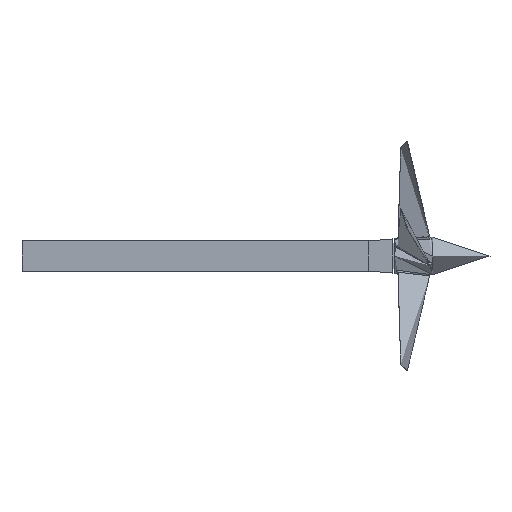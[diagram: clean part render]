
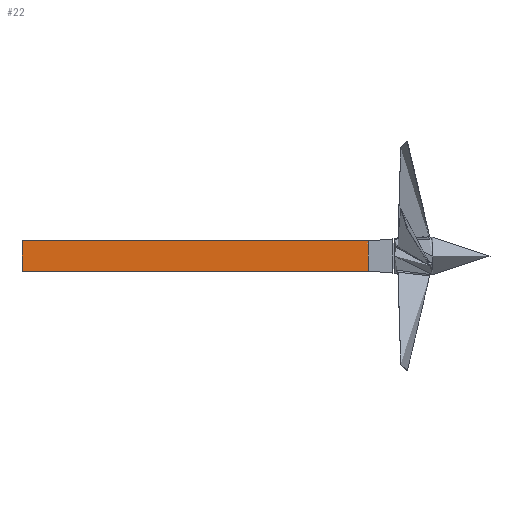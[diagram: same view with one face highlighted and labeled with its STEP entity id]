
A CAD part, top view. The second image highlights one B-rep face of the part: STEP entity #22.
In plain terms, the highlighted free-form (B-spline) face has degree [1, 2] with [2, 5] control points.
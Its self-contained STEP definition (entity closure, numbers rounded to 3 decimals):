
#22=ADVANCED_FACE($,(#80),#719,.T.);
#80=FACE_OUTER_BOUND($,#138,.T.);
#138=EDGE_LOOP($,(#205,#206,#207,#208));
#205=ORIENTED_EDGE($,*,*,#608,.T.);
#206=ORIENTED_EDGE($,*,*,#479,.T.);
#207=ORIENTED_EDGE($,*,*,#609,.F.);
#208=ORIENTED_EDGE($,*,*,#607,.F.);
#479=EDGE_CURVE($,#615,#616,#902,.T.);
#607=EDGE_CURVE($,#697,#698,#957,.T.);
#608=EDGE_CURVE($,#697,#615,#879,.T.);
#609=EDGE_CURVE($,#698,#616,#880,.T.);
#615=VERTEX_POINT($,#22014);
#616=VERTEX_POINT($,#22015);
#697=VERTEX_POINT($,#22096);
#698=VERTEX_POINT($,#22097);
#719=(
BOUNDED_SURFACE()
B_SPLINE_SURFACE(1,2,((#7416,#7417,#7418,#7419,#7420),(#7421,#7422,#7423,
#7424,#7425)),.UNSPECIFIED.,.F.,.F.,.F.)
B_SPLINE_SURFACE_WITH_KNOTS((2,2),(3,2,3),(0.,350.),(0.,23.955,
47.909),.UNSPECIFIED.)
GEOMETRIC_REPRESENTATION_ITEM()
RATIONAL_B_SPLINE_SURFACE(((1.,0.707,1.,0.707,1.),
(1.,0.707,1.,0.707,1.)))
REPRESENTATION_ITEM($)
SURFACE()
);
#879=(
BOUNDED_CURVE()
B_SPLINE_CURVE(2,(#7381,#7382,#7383,#7384,#7385),.UNSPECIFIED.,.F.,.F.)
B_SPLINE_CURVE_WITH_KNOTS((3,2,3),(-54.192,-27.096,0.),
.UNSPECIFIED.)
CURVE()
GEOMETRIC_REPRESENTATION_ITEM()
RATIONAL_B_SPLINE_CURVE((1.,0.707,1.,0.707,1.))
REPRESENTATION_ITEM($)
);
#880=(
BOUNDED_CURVE()
B_SPLINE_CURVE(2,(#7386,#7387,#7388,#7389,#7390),.UNSPECIFIED.,.F.,.F.)
B_SPLINE_CURVE_WITH_KNOTS((3,2,3),(-47.909,-23.955,0.),
.UNSPECIFIED.)
CURVE()
GEOMETRIC_REPRESENTATION_ITEM()
RATIONAL_B_SPLINE_CURVE((1.,0.707,1.,0.707,1.))
REPRESENTATION_ITEM($)
);
#902=B_SPLINE_CURVE_WITH_KNOTS($,1,(#1313,#1314),.UNSPECIFIED.,.F.,.F.,(2,
2),(0.,350.),.UNSPECIFIED.);
#957=B_SPLINE_CURVE_WITH_KNOTS($,1,(#7379,#7380),.UNSPECIFIED.,.F.,.F.,(2,
2),(0.,350.),.UNSPECIFIED.);
#1313=CARTESIAN_POINT($,(-48.178,15.25,0.));
#1314=CARTESIAN_POINT($,(-398.178,15.25,0.));
#7379=CARTESIAN_POINT($,(-48.178,-15.25,0.));
#7380=CARTESIAN_POINT($,(-398.178,-15.25,0.));
#7381=CARTESIAN_POINT($,(-48.178,-15.25,0.));
#7382=CARTESIAN_POINT($,(-48.178,-15.25,15.25));
#7383=CARTESIAN_POINT($,(-48.178,0.,15.25));
#7384=CARTESIAN_POINT($,(-48.178,15.25,15.25));
#7385=CARTESIAN_POINT($,(-48.178,15.25,0.));
#7386=CARTESIAN_POINT($,(-398.178,-15.25,0.));
#7387=CARTESIAN_POINT($,(-398.178,-15.25,15.25));
#7388=CARTESIAN_POINT($,(-398.178,0.,15.25));
#7389=CARTESIAN_POINT($,(-398.178,15.25,15.25));
#7390=CARTESIAN_POINT($,(-398.178,15.25,0.));
#7416=CARTESIAN_POINT($,(-48.178,15.25,0.));
#7417=CARTESIAN_POINT($,(-48.178,15.25,15.25));
#7418=CARTESIAN_POINT($,(-48.178,0.,15.25));
#7419=CARTESIAN_POINT($,(-48.178,-15.25,15.25));
#7420=CARTESIAN_POINT($,(-48.178,-15.25,0.));
#7421=CARTESIAN_POINT($,(-398.178,15.25,0.));
#7422=CARTESIAN_POINT($,(-398.178,15.25,15.25));
#7423=CARTESIAN_POINT($,(-398.178,0.,15.25));
#7424=CARTESIAN_POINT($,(-398.178,-15.25,15.25));
#7425=CARTESIAN_POINT($,(-398.178,-15.25,0.));
#22014=CARTESIAN_POINT($,(-48.178,15.25,0.));
#22015=CARTESIAN_POINT($,(-398.178,15.25,0.));
#22096=CARTESIAN_POINT($,(-48.178,-15.25,0.));
#22097=CARTESIAN_POINT($,(-398.178,-15.25,0.));
